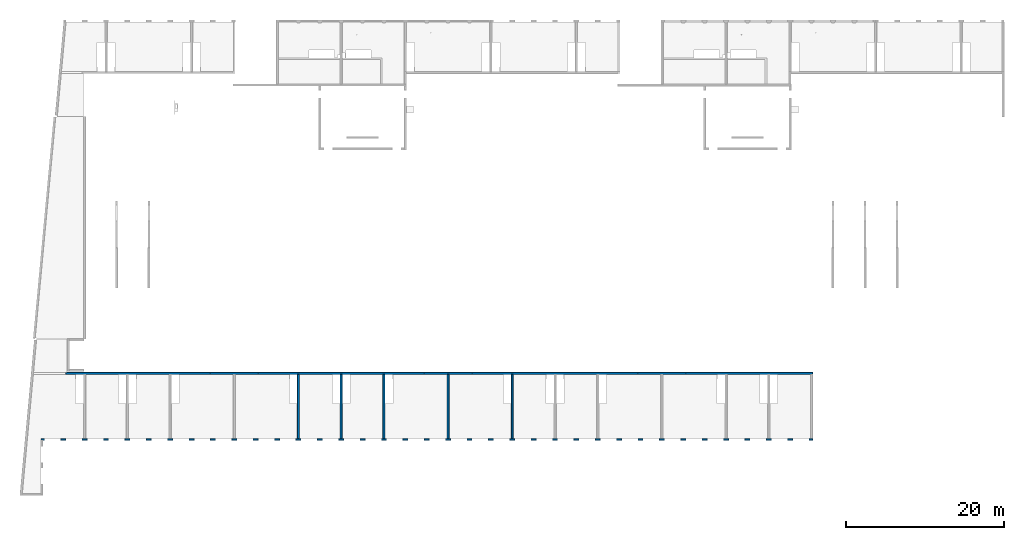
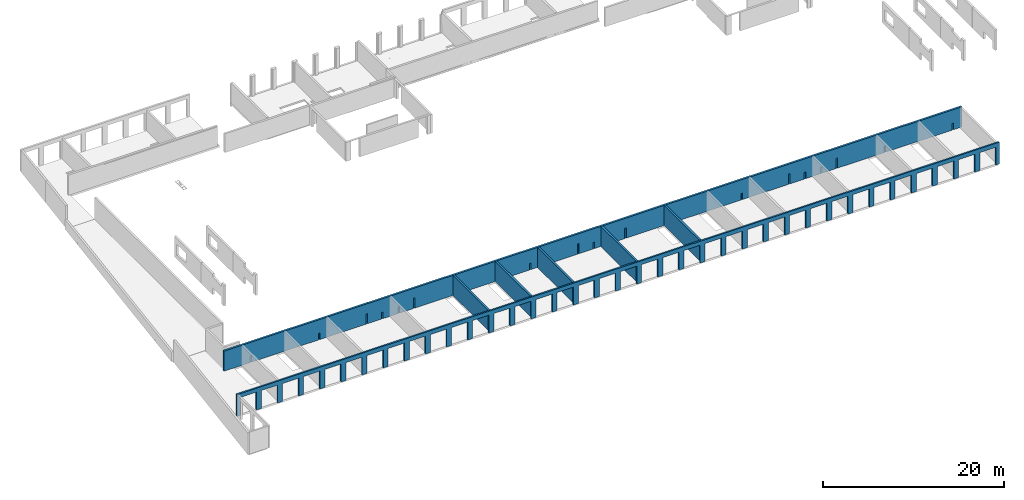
# One storey, part 4 of 12: 7 walls, 60 openings.
"""IFC2X3 building model written with IfcOpenShell, lengths in millimetres."""

from ifc_helpers import new_model, entity, si_unit, converted_unit, derived_unit, direction, frame, frame_2d, origin, place, context, subcontext, project, spatial, rectangle, extrude, material, layer, layer_set, layer_usage, type_object, element, save


model = new_model("IFC2X3")

# Units and contexts
model_context = context("Model", 3, precision=0.01, world=origin(), true_north=direction((6.12303176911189e-17, 1.0)))
body_context = subcontext(model_context, "Body", "Model", "MODEL_VIEW")
ifc_project = project(units=[si_unit("LENGTHUNIT", "METRE", prefix="MILLI"), si_unit("AREAUNIT", "SQUARE_METRE"), si_unit("VOLUMEUNIT", "CUBIC_METRE"), converted_unit("PLANEANGLEUNIT", "DEGREE", entity("IfcRatioMeasure", 0.0174532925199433), si_unit("PLANEANGLEUNIT", "RADIAN"), dimensions=[0, 0, 0, 0, 0, 0, 0]), si_unit("MASSUNIT", "GRAM", prefix="KILO"), derived_unit("MASSDENSITYUNIT", [(si_unit("MASSUNIT", "GRAM", prefix="KILO"), 1), (si_unit("LENGTHUNIT", "METRE"), -3)]), si_unit("TIMEUNIT", "SECOND"), si_unit("FREQUENCYUNIT", "HERTZ"), si_unit("THERMODYNAMICTEMPERATUREUNIT", "DEGREE_CELSIUS"), derived_unit("THERMALTRANSMITTANCEUNIT", [(si_unit("MASSUNIT", "GRAM", prefix="KILO"), 1), (si_unit("THERMODYNAMICTEMPERATUREUNIT", "KELVIN"), -1), (si_unit("TIMEUNIT", "SECOND"), -3)]), derived_unit("VOLUMETRICFLOWRATEUNIT", [(si_unit("LENGTHUNIT", "METRE"), 3), (si_unit("TIMEUNIT", "SECOND"), -1)]), si_unit("ELECTRICCURRENTUNIT", "AMPERE"), si_unit("ELECTRICVOLTAGEUNIT", "VOLT"), si_unit("POWERUNIT", "WATT"), si_unit("FORCEUNIT", "NEWTON", prefix="KILO"), si_unit("ILLUMINANCEUNIT", "LUX"), si_unit("LUMINOUSFLUXUNIT", "LUMEN"), si_unit("LUMINOUSINTENSITYUNIT", "CANDELA"), derived_unit("USERDEFINED", [(si_unit("MASSUNIT", "GRAM", prefix="KILO"), -1), (si_unit("LENGTHUNIT", "METRE"), -2), (si_unit("TIMEUNIT", "SECOND"), 3), (si_unit("LUMINOUSFLUXUNIT", "LUMEN"), 1)]), derived_unit("LINEARVELOCITYUNIT", [(si_unit("LENGTHUNIT", "METRE"), 1), (si_unit("TIMEUNIT", "SECOND"), -1)]), si_unit("PRESSUREUNIT", "PASCAL"), derived_unit("USERDEFINED", [(si_unit("LENGTHUNIT", "METRE"), -2), (si_unit("MASSUNIT", "GRAM", prefix="KILO"), 1), (si_unit("TIMEUNIT", "SECOND"), -2)])], contexts=[model_context])

# Site, building, storey
site_placement = place(None, origin())
site = spatial("IfcSite", under=ifc_project, at=site_placement, Name="Default", CompositionType="ELEMENT")
building_placement = place(site_placement, origin())
building = spatial("IfcBuilding", under=site, at=building_placement, Name="niet gebruiken", CompositionType="ELEMENT")
storey_placement = place(building_placement, frame((0.0, 0.0, 6660.0)))
storey = spatial("IfcBuildingStorey", under=building, at=storey_placement, Name="02 tweede verdieping", CompositionType="ELEMENT", Elevation=6660.00000000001)

# Walls
ifc_material_1 = material(Name="NLRS_f2_beton ihwg")
ifc_layer_1 = layer(ifc_material_1, 250.0)
ifc_layer_set_1 = layer_set([ifc_layer_1], Name="Basic Wall:NLRS_22.21_WA_beton ihwg d=250_gen")
ifc_layer_usage_1 = layer_usage(ifc_layer_set_1, "AXIS2", "NEGATIVE", 125.0)
wall_type_1 = type_object("IfcWallType", Name="Basic Wall:NLRS_22.21_WA_beton ihwg d=250_gen", PredefinedType="STANDARD", material=ifc_layer_set_1)
wall_1_placement = place(storey_placement, frame((35100.0, 8496.0, -90.0), z_axis=(0.0, 0.0, 1.0), x_axis=(0.0, -1.0, 0.0)))
element("IfcWallStandardCase", 1, at=wall_1_placement, inside=storey, type_object=wall_type_1, material=ifc_layer_usage_1, Name="Basic Wall:NLRS_22.21_WA_beton ihwg d=250_gen", ObjectType="Basic Wall:NLRS_22.21_WA_beton ihwg d=250_gen", context=body_context, shape_type="SweptSolid", body=[
    extrude(rectangle(XDim=8075.99999999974, YDim=250.000000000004, at=frame_2d((4037.99999999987, 0.0), x_axis=(-1.0, 0.0))), origin(), (0.0, 0.0, 1.0), 2719.99999999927),
])
ifc_layer_usage_2 = layer_usage(ifc_layer_set_1, "AXIS2", "NEGATIVE", 125.0)
wall_2_placement = place(storey_placement, frame((40500.0, 8496.0, -90.0), z_axis=(0.0, 0.0, 1.0), x_axis=(0.0, -1.0, 0.0)))
element("IfcWallStandardCase", 2, at=wall_2_placement, inside=storey, type_object=wall_type_1, material=ifc_layer_usage_2, Name="Basic Wall:NLRS_22.21_WA_beton ihwg d=250_gen", ObjectType="Basic Wall:NLRS_22.21_WA_beton ihwg d=250_gen", context=body_context, shape_type="SweptSolid", body=[
    extrude(rectangle(XDim=8075.99999999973, YDim=249.999999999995, at=frame_2d((4037.99999999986, 0.0), x_axis=(-1.0, 0.0))), origin(), (0.0, 0.0, 1.0), 2720.00000000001),
])
ifc_layer_usage_3 = layer_usage(ifc_layer_set_1, "AXIS2", "NEGATIVE", 125.0)
wall_3_placement = place(storey_placement, frame((45900.0, 8496.0, -90.0), z_axis=(0.0, 0.0, 1.0), x_axis=(0.0, -1.0, 0.0)))
element("IfcWallStandardCase", 3, at=wall_3_placement, inside=storey, type_object=wall_type_1, material=ifc_layer_usage_3, Name="Basic Wall:NLRS_22.21_WA_beton ihwg d=250_gen", ObjectType="Basic Wall:NLRS_22.21_WA_beton ihwg d=250_gen", context=body_context, shape_type="SweptSolid", body=[
    extrude(rectangle(XDim=8075.99999999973, YDim=249.999999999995, at=frame_2d((4037.99999999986, 0.0), x_axis=(-1.0, 0.0))), origin(), (0.0, 0.0, 1.0), 2720.00000000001),
])
ifc_layer_usage_4 = layer_usage(ifc_layer_set_1, "AXIS2", "NEGATIVE", 125.0)
wall_4_placement = place(storey_placement, frame((54000.0, 8496.0, -90.0), z_axis=(0.0, 0.0, 1.0), x_axis=(0.0, -1.0, 0.0)))
element("IfcWallStandardCase", 4, at=wall_4_placement, inside=storey, type_object=wall_type_1, material=ifc_layer_usage_4, Name="Basic Wall:NLRS_22.21_WA_beton ihwg d=250_gen", ObjectType="Basic Wall:NLRS_22.21_WA_beton ihwg d=250_gen", context=body_context, shape_type="SweptSolid", body=[
    extrude(rectangle(XDim=8075.99999999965, YDim=249.999999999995, at=frame_2d((4037.99999999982, 0.0), x_axis=(-1.0, 0.0))), origin(), (0.0, 0.0, 1.0), 2720.00000000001),
])
ifc_layer_usage_5 = layer_usage(ifc_layer_set_1, "AXIS2", "NEGATIVE", 125.0)
wall_5_placement = place(storey_placement, frame((62100.0, 8496.0, -90.0), z_axis=(0.0, 0.0, 1.0), x_axis=(0.0, -1.0, 0.0)))
element("IfcWallStandardCase", 5, at=wall_5_placement, inside=storey, type_object=wall_type_1, material=ifc_layer_usage_5, Name="Basic Wall:NLRS_22.21_WA_beton ihwg d=250_gen", ObjectType="Basic Wall:NLRS_22.21_WA_beton ihwg d=250_gen", context=body_context, shape_type="SweptSolid", body=[
    extrude(rectangle(XDim=8075.99999999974, YDim=249.999999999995, at=frame_2d((4037.99999999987, 0.0), x_axis=(-1.0, 0.0))), origin(), (0.0, 0.0, 1.0), 2720.00000000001),
])

# Wall, openings
ifc_layer_usage_6 = layer_usage(ifc_layer_set_1, "AXIS2", "NEGATIVE", 125.0)
wall_6_placement = place(storey_placement, frame((5735.0, 8621.0, -90.0)))
wall_6 = element("IfcWallStandardCase", 6, at=wall_6_placement, inside=storey, type_object=wall_type_1, material=ifc_layer_usage_6, Name="Basic Wall:NLRS_22.21_WA_beton ihwg d=250_gen", ObjectType="Basic Wall:NLRS_22.21_WA_beton ihwg d=250_gen", context=body_context, shape_type="SweptSolid", body=[
    extrude(rectangle(XDim=94290.0, YDim=249.999999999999, at=frame_2d((47145.0, 1.63424829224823e-13), x_axis=(-1.0, 0.0))), origin(), (0.0, 0.0, 1.0), 2720.00000000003),
])
opening_1_placement = place(wall_6_placement, origin())
element("IfcOpeningElement", 7, at=opening_1_placement, cuts=wall_6, Name="Basic Wall:NLRS_22.21_WA_beton ihwg d=250_gen", ObjectType="Recess", context=body_context, shape_type="SweptSolid", body=[
    extrude(rectangle(XDim=890.0, YDim=200.000000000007, at=frame_2d((-5.40012479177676e-13, 8.66862137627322e-12), x_axis=(1.0, 0.0))), frame((93130.0, -125.0, 445.0), z_axis=(0.0, 1.0, 0.0), x_axis=(0.0, 0.0, -1.0)), (0.0, 0.0, 1.0), 40.0000000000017),
])
opening_2_placement = place(wall_6_placement, origin())
element("IfcOpeningElement", 8, at=opening_2_placement, cuts=wall_6, Name="Basic Wall:NLRS_22.21_WA_beton ihwg d=250_gen", ObjectType="Recess", context=body_context, shape_type="SweptSolid", body=[
    extrude(rectangle(XDim=890.0, YDim=200.000000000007, at=frame_2d((-5.40012479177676e-13, 8.66862137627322e-12), x_axis=(1.0, 0.0))), frame((84400.0, -125.0, 445.0), z_axis=(0.0, 1.0, 0.0), x_axis=(0.0, 0.0, -1.0)), (0.0, 0.0, 1.0), 40.0000000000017),
])
opening_3_placement = place(wall_6_placement, origin())
element("IfcOpeningElement", 9, at=opening_3_placement, cuts=wall_6, Name="Basic Wall:NLRS_22.21_WA_beton ihwg d=250_gen", ObjectType="Recess", context=body_context, shape_type="SweptSolid", body=[
    extrude(rectangle(XDim=1390.0, YDim=200.000000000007, at=frame_2d((0.0, -8.66862137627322e-12), x_axis=(1.0, 0.0))), frame((78295.0, -125.0, 695.0), z_axis=(0.0, 1.0, 0.0), x_axis=(0.0, 0.0, -1.0)), (0.0, 0.0, 1.0), 40.0000000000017),
])
opening_4_placement = place(wall_6_placement, origin())
element("IfcOpeningElement", 10, at=opening_4_placement, cuts=wall_6, Name="Basic Wall:NLRS_22.21_WA_beton ihwg d=250_gen", ObjectType="Recess", context=body_context, shape_type="SweptSolid", body=[
    extrude(rectangle(XDim=890.0, YDim=200.000000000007, at=frame_2d((-5.40012479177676e-13, -8.66862137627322e-12), x_axis=(1.0, 0.0))), frame((76300.0, -125.0, 445.0), z_axis=(0.0, 1.0, 0.0), x_axis=(0.0, 0.0, -1.0)), (0.0, 0.0, 1.0), 40.0000000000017),
])
opening_5_placement = place(wall_6_placement, origin())
element("IfcOpeningElement", 11, at=opening_5_placement, cuts=wall_6, Name="Basic Wall:NLRS_22.21_WA_beton ihwg d=250_gen", ObjectType="Recess", context=body_context, shape_type="SweptSolid", body=[
    extrude(rectangle(XDim=890.0, YDim=200.000000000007, at=frame_2d((-5.40012479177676e-13, 8.66862137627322e-12), x_axis=(1.0, 0.0))), frame((74230.0, -125.0, 445.0), z_axis=(0.0, 1.0, 0.0), x_axis=(0.0, 0.0, -1.0)), (0.0, 0.0, 1.0), 40.0000000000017),
])
opening_6_placement = place(wall_6_placement, origin())
element("IfcOpeningElement", 12, at=opening_6_placement, cuts=wall_6, Name="Basic Wall:NLRS_22.21_WA_beton ihwg d=250_gen", ObjectType="Recess", context=body_context, shape_type="SweptSolid", body=[
    extrude(rectangle(XDim=1390.0, YDim=199.999999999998, at=frame_2d((0.0, -4.33431068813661e-12), x_axis=(1.0, 0.0))), frame((72235.0, -125.0, 695.0), z_axis=(0.0, 1.0, 0.0), x_axis=(0.0, 0.0, -1.0)), (0.0, 0.0, 1.0), 40.0000000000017),
])
opening_7_placement = place(wall_6_placement, origin())
element("IfcOpeningElement", 13, at=opening_7_placement, cuts=wall_6, Name="Basic Wall:NLRS_22.21_WA_beton ihwg d=250_gen", ObjectType="Recess", context=body_context, shape_type="SweptSolid", body=[
    extrude(rectangle(XDim=890.0, YDim=199.999999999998, at=frame_2d((-5.40012479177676e-13, -4.33431068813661e-12), x_axis=(1.0, 0.0))), frame((66130.0, -125.0, 445.0), z_axis=(0.0, 1.0, 0.0), x_axis=(0.0, 0.0, -1.0)), (0.0, 0.0, 1.0), 40.0000000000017),
])
opening_8_placement = place(wall_6_placement, origin())
element("IfcOpeningElement", 14, at=opening_8_placement, cuts=wall_6, Name="Basic Wall:NLRS_22.21_WA_beton ihwg d=250_gen", ObjectType="Recess", context=body_context, shape_type="SweptSolid", body=[
    extrude(rectangle(XDim=890.0, YDim=199.999999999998, at=frame_2d((-5.40012479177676e-13, -4.33431068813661e-12), x_axis=(1.0, 0.0))), frame((57400.0, -125.0, 445.0), z_axis=(0.0, 1.0, 0.0), x_axis=(0.0, 0.0, -1.0)), (0.0, 0.0, 1.0), 40.0000000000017),
])
opening_9_placement = place(wall_6_placement, origin())
element("IfcOpeningElement", 15, at=opening_9_placement, cuts=wall_6, Name="Basic Wall:NLRS_22.21_WA_beton ihwg d=250_gen", ObjectType="Recess", context=body_context, shape_type="SweptSolid", body=[
    extrude(rectangle(XDim=1390.0, YDim=199.999999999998, at=frame_2d((0.0, -4.33431068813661e-12), x_axis=(1.0, 0.0))), frame((51295.0, -125.0, 695.0), z_axis=(0.0, 1.0, 0.0), x_axis=(0.0, 0.0, -1.0)), (0.0, 0.0, 1.0), 40.0000000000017),
])
opening_10_placement = place(wall_6_placement, origin())
element("IfcOpeningElement", 16, at=opening_10_placement, cuts=wall_6, Name="Basic Wall:NLRS_22.21_WA_beton ihwg d=250_gen", ObjectType="Recess", context=body_context, shape_type="SweptSolid", body=[
    extrude(rectangle(XDim=890.0, YDim=199.999999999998, at=frame_2d((-5.40012479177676e-13, 4.33431068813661e-12), x_axis=(1.0, 0.0))), frame((49300.0, -125.0, 445.0), z_axis=(0.0, 1.0, 0.0), x_axis=(0.0, 0.0, -1.0)), (0.0, 0.0, 1.0), 40.0000000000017),
])
opening_11_placement = place(wall_6_placement, origin())
element("IfcOpeningElement", 17, at=opening_11_placement, cuts=wall_6, Name="Basic Wall:NLRS_22.21_WA_beton ihwg d=250_gen", ObjectType="Recess", context=body_context, shape_type="SweptSolid", body=[
    extrude(rectangle(XDim=890.0, YDim=199.999999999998, at=frame_2d((-5.40012479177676e-13, -4.33431068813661e-12), x_axis=(1.0, 0.0))), frame((47230.0, -125.0, 445.0), z_axis=(0.0, 1.0, 0.0), x_axis=(0.0, 0.0, -1.0)), (0.0, 0.0, 1.0), 40.0000000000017),
])
opening_12_placement = place(wall_6_placement, origin())
element("IfcOpeningElement", 18, at=opening_12_placement, cuts=wall_6, Name="Basic Wall:NLRS_22.21_WA_beton ihwg d=250_gen", ObjectType="Recess", context=body_context, shape_type="SweptSolid", body=[
    extrude(rectangle(XDim=1390.0, YDim=199.999999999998, at=frame_2d((0.0, -4.33431068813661e-12), x_axis=(1.0, 0.0))), frame((45235.0, -125.0, 695.0), z_axis=(0.0, 1.0, 0.0), x_axis=(0.0, 0.0, -1.0)), (0.0, 0.0, 1.0), 40.0000000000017),
])
opening_13_placement = place(wall_6_placement, origin())
element("IfcOpeningElement", 19, at=opening_13_placement, cuts=wall_6, Name="Basic Wall:NLRS_22.21_WA_beton ihwg d=250_gen", ObjectType="Recess", context=body_context, shape_type="SweptSolid", body=[
    extrude(rectangle(XDim=890.0, YDim=199.999999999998, at=frame_2d((-5.40012479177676e-13, -4.33431068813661e-12), x_axis=(1.0, 0.0))), frame((39130.0, -125.0, 445.0), z_axis=(0.0, 1.0, 0.0), x_axis=(0.0, 0.0, -1.0)), (0.0, 0.0, 1.0), 40.0000000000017),
])
opening_14_placement = place(wall_6_placement, origin())
element("IfcOpeningElement", 20, at=opening_14_placement, cuts=wall_6, Name="Basic Wall:NLRS_22.21_WA_beton ihwg d=250_gen", ObjectType="Recess", context=body_context, shape_type="SweptSolid", body=[
    extrude(rectangle(XDim=890.0, YDim=200.000000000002, at=frame_2d((-5.40012479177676e-13, -2.16715534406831e-12), x_axis=(1.0, 0.0))), frame((30400.0, -125.0, 445.0), z_axis=(0.0, 1.0, 0.0), x_axis=(0.0, 0.0, -1.0)), (0.0, 0.0, 1.0), 40.0000000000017),
])
opening_15_placement = place(wall_6_placement, origin())
element("IfcOpeningElement", 21, at=opening_15_placement, cuts=wall_6, Name="Basic Wall:NLRS_22.21_WA_beton ihwg d=250_gen", ObjectType="Recess", context=body_context, shape_type="SweptSolid", body=[
    extrude(rectangle(XDim=1390.0, YDim=200.000000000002, at=frame_2d((0.0, -2.16715534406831e-12), x_axis=(1.0, 0.0))), frame((24295.0, -125.0, 695.0), z_axis=(0.0, 1.0, 0.0), x_axis=(0.0, 0.0, -1.0)), (0.0, 0.0, 1.0), 40.0000000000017),
])
opening_16_placement = place(wall_6_placement, origin())
element("IfcOpeningElement", 22, at=opening_16_placement, cuts=wall_6, Name="Basic Wall:NLRS_22.21_WA_beton ihwg d=250_gen", ObjectType="Recess", context=body_context, shape_type="SweptSolid", body=[
    extrude(rectangle(XDim=890.0, YDim=200.000000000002, at=frame_2d((-5.40012479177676e-13, 2.16715534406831e-12), x_axis=(1.0, 0.0))), frame((22300.0, -125.0, 445.0), z_axis=(0.0, 1.0, 0.0), x_axis=(0.0, 0.0, -1.0)), (0.0, 0.0, 1.0), 40.0000000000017),
])
opening_17_placement = place(wall_6_placement, origin())
element("IfcOpeningElement", 23, at=opening_17_placement, cuts=wall_6, Name="Basic Wall:NLRS_22.21_WA_beton ihwg d=250_gen", ObjectType="Recess", context=body_context, shape_type="SweptSolid", body=[
    extrude(rectangle(XDim=890.0, YDim=200.000000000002, at=frame_2d((-5.40012479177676e-13, -2.16715534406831e-12), x_axis=(1.0, 0.0))), frame((20230.0, -125.0, 445.0), z_axis=(0.0, 1.0, 0.0), x_axis=(0.0, 0.0, -1.0)), (0.0, 0.0, 1.0), 40.0000000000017),
])
opening_18_placement = place(wall_6_placement, origin())
element("IfcOpeningElement", 24, at=opening_18_placement, cuts=wall_6, Name="Basic Wall:NLRS_22.21_WA_beton ihwg d=250_gen", ObjectType="Recess", context=body_context, shape_type="SweptSolid", body=[
    extrude(rectangle(XDim=1390.0, YDim=200.000000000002, at=frame_2d((0.0, 2.16715534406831e-12), x_axis=(1.0, 0.0))), frame((18235.0, -125.0, 695.0), z_axis=(0.0, 1.0, 0.0), x_axis=(0.0, 0.0, -1.0)), (0.0, 0.0, 1.0), 40.0000000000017),
])
opening_19_placement = place(wall_6_placement, origin())
element("IfcOpeningElement", 25, at=opening_19_placement, cuts=wall_6, Name="Basic Wall:NLRS_22.21_WA_beton ihwg d=250_gen", ObjectType="Recess", context=body_context, shape_type="SweptSolid", body=[
    extrude(rectangle(XDim=890.0, YDim=200.0, at=frame_2d((-5.40012479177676e-13, 1.08713038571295e-12), x_axis=(1.0, 0.0))), frame((12130.0, -125.0, 445.0), z_axis=(0.0, 1.0, 0.0), x_axis=(0.0, 0.0, -1.0)), (0.0, 0.0, 1.0), 40.0000000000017),
])
opening_20_placement = place(wall_6_placement, origin())
element("IfcOpeningElement", 26, at=opening_20_placement, cuts=wall_6, Name="Basic Wall:NLRS_22.21_WA_beton ihwg d=250_gen", ObjectType="Recess", context=body_context, shape_type="SweptSolid", body=[
    extrude(rectangle(XDim=890.0, YDim=200.0, at=frame_2d((-5.40012479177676e-13, 0.0), x_axis=(1.0, 0.0))), frame((3400.0, -125.0, 445.0), z_axis=(0.0, 1.0, 0.0), x_axis=(0.0, 0.0, -1.0)), (0.0, 0.0, 1.0), 40.0000000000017),
])

ifc_material_2 = material(Name="NLRS_f2_beton prefab")
ifc_layer_2 = layer(ifc_material_2, 200.0)
ifc_layer_set_2 = layer_set([ifc_layer_2], Name="Basic Wall:NLRS_21.21_WA_beton prefab d=200_gen")
ifc_layer_usage_7 = layer_usage(ifc_layer_set_2, "AXIS2", "NEGATIVE", 100.0)
wall_type_2 = type_object("IfcWallType", Name="Basic Wall:NLRS_21.21_WA_beton prefab d=200_gen", PredefinedType="STANDARD", material=ifc_layer_set_2)
wall_7_placement = place(storey_placement, frame((2600.0, 300.0, -70.0)))
wall_7 = element("IfcWallStandardCase", 27, at=wall_7_placement, inside=storey, type_object=wall_type_2, material=ifc_layer_usage_7, Name="Basic Wall:NLRS_21.21_WA_beton prefab d=200_gen", ObjectType="Basic Wall:NLRS_21.21_WA_beton prefab d=200_gen", context=body_context, shape_type="SweptSolid", body=[
    extrude(rectangle(XDim=97424.9999999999, YDim=200.0, at=frame_2d((48712.4999999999, -2.8421709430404e-14), x_axis=(-1.0, 0.0))), origin(), (0.0, 0.0, 1.0), 2950.00000000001),
])
opening_21_placement = place(wall_7_placement, origin())
element("IfcOpeningElement", 28, at=opening_21_placement, cuts=wall_7, Name="Basic Wall:NLRS_21.21_WA_beton prefab d=200_gen", ObjectType="Opening", context=body_context, shape_type="SweptSolid", body=[
    extrude(rectangle(XDim=2440.0, YDim=2080.0, at=frame_2d((-8.64019966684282e-12, 0.0), x_axis=(0.0, 1.0))), frame((95950.0, -1424.0, 1200.0), z_axis=(0.0, 1.0, 0.0), x_axis=(-1.0, 0.0, 0.0)), (0.0, 0.0, 1.0), 3048.0),
])
opening_22_placement = place(wall_7_placement, origin())
element("IfcOpeningElement", 29, at=opening_22_placement, cuts=wall_7, Name="Basic Wall:NLRS_21.21_WA_beton prefab d=200_gen", ObjectType="Opening", context=body_context, shape_type="SweptSolid", body=[
    extrude(rectangle(XDim=2440.0, YDim=2080.0, at=frame_2d((8.64019966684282e-12, 0.0), x_axis=(0.0, 1.0))), frame((93250.0, -1424.0, 1200.0), z_axis=(0.0, 1.0, 0.0), x_axis=(-1.0, 0.0, 0.0)), (0.0, 0.0, 1.0), 3048.0),
])
opening_23_placement = place(wall_7_placement, origin())
element("IfcOpeningElement", 30, at=opening_23_placement, cuts=wall_7, Name="Basic Wall:NLRS_21.21_WA_beton prefab d=200_gen", ObjectType="Opening", context=body_context, shape_type="SweptSolid", body=[
    extrude(rectangle(XDim=2440.0, YDim=2080.0, at=frame_2d((8.64019966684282e-12, 0.0), x_axis=(0.0, 1.0))), frame((90550.0, -1424.0, 1200.0), z_axis=(0.0, 1.0, 0.0), x_axis=(-1.0, 0.0, 0.0)), (0.0, 0.0, 1.0), 3048.0),
])
opening_24_placement = place(wall_7_placement, origin())
element("IfcOpeningElement", 31, at=opening_24_placement, cuts=wall_7, Name="Basic Wall:NLRS_21.21_WA_beton prefab d=200_gen", ObjectType="Opening", context=body_context, shape_type="SweptSolid", body=[
    extrude(rectangle(XDim=2440.0, YDim=2080.0, at=frame_2d((-8.64019966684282e-12, 0.0), x_axis=(0.0, 1.0))), frame((87850.0, -1424.0, 1200.0), z_axis=(0.0, 1.0, 0.0), x_axis=(-1.0, 0.0, 0.0)), (0.0, 0.0, 1.0), 3048.0),
])
opening_25_placement = place(wall_7_placement, origin())
element("IfcOpeningElement", 32, at=opening_25_placement, cuts=wall_7, Name="Basic Wall:NLRS_21.21_WA_beton prefab d=200_gen", ObjectType="Opening", context=body_context, shape_type="SweptSolid", body=[
    extrude(rectangle(XDim=2440.0, YDim=2080.0, at=frame_2d((8.64019966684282e-12, 0.0), x_axis=(0.0, 1.0))), frame((85150.0, -1424.0, 1200.0), z_axis=(0.0, 1.0, 0.0), x_axis=(-1.0, 0.0, 0.0)), (0.0, 0.0, 1.0), 3048.0),
])
opening_26_placement = place(wall_7_placement, origin())
element("IfcOpeningElement", 33, at=opening_26_placement, cuts=wall_7, Name="Basic Wall:NLRS_21.21_WA_beton prefab d=200_gen", ObjectType="Opening", context=body_context, shape_type="SweptSolid", body=[
    extrude(rectangle(XDim=2440.0, YDim=2080.0, at=frame_2d((8.64019966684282e-12, 0.0), x_axis=(0.0, 1.0))), frame((82450.0, -1424.0, 1200.0), z_axis=(0.0, 1.0, 0.0), x_axis=(-1.0, 0.0, 0.0)), (0.0, 0.0, 1.0), 3048.0),
])
opening_27_placement = place(wall_7_placement, origin())
element("IfcOpeningElement", 34, at=opening_27_placement, cuts=wall_7, Name="Basic Wall:NLRS_21.21_WA_beton prefab d=200_gen", ObjectType="Opening", context=body_context, shape_type="SweptSolid", body=[
    extrude(rectangle(XDim=2440.0, YDim=2080.0, at=frame_2d((-8.64019966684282e-12, 0.0), x_axis=(0.0, 1.0))), frame((79750.0, -1424.0, 1200.0), z_axis=(0.0, 1.0, 0.0), x_axis=(-1.0, 0.0, 0.0)), (0.0, 0.0, 1.0), 3048.0),
])
opening_28_placement = place(wall_7_placement, origin())
element("IfcOpeningElement", 35, at=opening_28_placement, cuts=wall_7, Name="Basic Wall:NLRS_21.21_WA_beton prefab d=200_gen", ObjectType="Opening", context=body_context, shape_type="SweptSolid", body=[
    extrude(rectangle(XDim=2440.0, YDim=2080.0, at=frame_2d((-8.64019966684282e-12, 0.0), x_axis=(0.0, 1.0))), frame((77050.0, -1424.0, 1200.0), z_axis=(0.0, 1.0, 0.0), x_axis=(-1.0, 0.0, 0.0)), (0.0, 0.0, 1.0), 3048.0),
])
opening_29_placement = place(wall_7_placement, origin())
element("IfcOpeningElement", 36, at=opening_29_placement, cuts=wall_7, Name="Basic Wall:NLRS_21.21_WA_beton prefab d=200_gen", ObjectType="Opening", context=body_context, shape_type="SweptSolid", body=[
    extrude(rectangle(XDim=2440.0, YDim=2080.0, at=frame_2d((0.0, 0.0), x_axis=(0.0, 1.0))), frame((74350.0, -1424.0, 1200.0), z_axis=(0.0, 1.0, 0.0), x_axis=(-1.0, 0.0, 0.0)), (0.0, 0.0, 1.0), 3048.0),
])
opening_30_placement = place(wall_7_placement, origin())
element("IfcOpeningElement", 37, at=opening_30_placement, cuts=wall_7, Name="Basic Wall:NLRS_21.21_WA_beton prefab d=200_gen", ObjectType="Opening", context=body_context, shape_type="SweptSolid", body=[
    extrude(rectangle(XDim=2440.0, YDim=2080.0, at=frame_2d((0.0, 0.0), x_axis=(0.0, 1.0))), frame((71650.0, -1424.0, 1200.0), z_axis=(0.0, 1.0, 0.0), x_axis=(-1.0, 0.0, 0.0)), (0.0, 0.0, 1.0), 3048.0),
])
opening_31_placement = place(wall_7_placement, origin())
element("IfcOpeningElement", 38, at=opening_31_placement, cuts=wall_7, Name="Basic Wall:NLRS_21.21_WA_beton prefab d=200_gen", ObjectType="Opening", context=body_context, shape_type="SweptSolid", body=[
    extrude(rectangle(XDim=2440.0, YDim=2080.0, at=frame_2d((8.64019966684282e-12, 0.0), x_axis=(0.0, 1.0))), frame((68950.0, -1424.0, 1200.0), z_axis=(0.0, 1.0, 0.0), x_axis=(-1.0, 0.0, 0.0)), (0.0, 0.0, 1.0), 3048.0),
])
opening_32_placement = place(wall_7_placement, origin())
element("IfcOpeningElement", 39, at=opening_32_placement, cuts=wall_7, Name="Basic Wall:NLRS_21.21_WA_beton prefab d=200_gen", ObjectType="Opening", context=body_context, shape_type="SweptSolid", body=[
    extrude(rectangle(XDim=2440.0, YDim=2080.0, at=frame_2d((0.0, 0.0), x_axis=(0.0, 1.0))), frame((66250.0, -1424.0, 1200.0), z_axis=(0.0, 1.0, 0.0), x_axis=(-1.0, 0.0, 0.0)), (0.0, 0.0, 1.0), 3048.0),
])
opening_33_placement = place(wall_7_placement, origin())
element("IfcOpeningElement", 40, at=opening_33_placement, cuts=wall_7, Name="Basic Wall:NLRS_21.21_WA_beton prefab d=200_gen", ObjectType="Opening", context=body_context, shape_type="SweptSolid", body=[
    extrude(rectangle(XDim=2440.0, YDim=2080.0, at=frame_2d((0.0, 0.0), x_axis=(0.0, 1.0))), frame((63550.0, -1424.0, 1200.0), z_axis=(0.0, 1.0, 0.0), x_axis=(-1.0, 0.0, 0.0)), (0.0, 0.0, 1.0), 3048.0),
])
opening_34_placement = place(wall_7_placement, origin())
element("IfcOpeningElement", 41, at=opening_34_placement, cuts=wall_7, Name="Basic Wall:NLRS_21.21_WA_beton prefab d=200_gen", ObjectType="Opening", context=body_context, shape_type="SweptSolid", body=[
    extrude(rectangle(XDim=2440.0, YDim=2080.0, at=frame_2d((-8.64019966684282e-12, 0.0), x_axis=(0.0, 1.0))), frame((60850.0, -1424.0, 1200.0), z_axis=(0.0, 1.0, 0.0), x_axis=(-1.0, 0.0, 0.0)), (0.0, 0.0, 1.0), 3048.0),
])
opening_35_placement = place(wall_7_placement, origin())
element("IfcOpeningElement", 42, at=opening_35_placement, cuts=wall_7, Name="Basic Wall:NLRS_21.21_WA_beton prefab d=200_gen", ObjectType="Opening", context=body_context, shape_type="SweptSolid", body=[
    extrude(rectangle(XDim=2440.0, YDim=2080.0, at=frame_2d((0.0, 0.0), x_axis=(0.0, 1.0))), frame((58150.0, -1424.0, 1200.0), z_axis=(0.0, 1.0, 0.0), x_axis=(-1.0, 0.0, 0.0)), (0.0, 0.0, 1.0), 3048.0),
])
opening_36_placement = place(wall_7_placement, origin())
element("IfcOpeningElement", 43, at=opening_36_placement, cuts=wall_7, Name="Basic Wall:NLRS_21.21_WA_beton prefab d=200_gen", ObjectType="Opening", context=body_context, shape_type="SweptSolid", body=[
    extrude(rectangle(XDim=2440.0, YDim=2080.0, at=frame_2d((0.0, 0.0), x_axis=(0.0, 1.0))), frame((55450.0, -1424.0, 1200.0), z_axis=(0.0, 1.0, 0.0), x_axis=(-1.0, 0.0, 0.0)), (0.0, 0.0, 1.0), 3048.0),
])
opening_37_placement = place(wall_7_placement, origin())
element("IfcOpeningElement", 44, at=opening_37_placement, cuts=wall_7, Name="Basic Wall:NLRS_21.21_WA_beton prefab d=200_gen", ObjectType="Opening", context=body_context, shape_type="SweptSolid", body=[
    extrude(rectangle(XDim=2440.0, YDim=2080.0, at=frame_2d((0.0, 0.0), x_axis=(0.0, 1.0))), frame((52750.0, -1424.0, 1200.0), z_axis=(0.0, 1.0, 0.0), x_axis=(-1.0, 0.0, 0.0)), (0.0, 0.0, 1.0), 3048.0),
])
opening_38_placement = place(wall_7_placement, origin())
element("IfcOpeningElement", 45, at=opening_38_placement, cuts=wall_7, Name="Basic Wall:NLRS_21.21_WA_beton prefab d=200_gen", ObjectType="Opening", context=body_context, shape_type="SweptSolid", body=[
    extrude(rectangle(XDim=2440.0, YDim=2080.0, at=frame_2d((8.64019966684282e-12, 0.0), x_axis=(0.0, 1.0))), frame((50050.0, -1424.0, 1200.0), z_axis=(0.0, 1.0, 0.0), x_axis=(-1.0, 0.0, 0.0)), (0.0, 0.0, 1.0), 3048.0),
])
opening_39_placement = place(wall_7_placement, origin())
element("IfcOpeningElement", 46, at=opening_39_placement, cuts=wall_7, Name="Basic Wall:NLRS_21.21_WA_beton prefab d=200_gen", ObjectType="Opening", context=body_context, shape_type="SweptSolid", body=[
    extrude(rectangle(XDim=2440.0, YDim=2080.0, at=frame_2d((0.0, 0.0), x_axis=(0.0, 1.0))), frame((47350.0, -1424.0, 1200.0), z_axis=(0.0, 1.0, 0.0), x_axis=(-1.0, 0.0, 0.0)), (0.0, 0.0, 1.0), 3048.0),
])
opening_40_placement = place(wall_7_placement, origin())
element("IfcOpeningElement", 47, at=opening_40_placement, cuts=wall_7, Name="Basic Wall:NLRS_21.21_WA_beton prefab d=200_gen", ObjectType="Opening", context=body_context, shape_type="SweptSolid", body=[
    extrude(rectangle(XDim=2440.0, YDim=2080.0, at=frame_2d((0.0, 0.0), x_axis=(0.0, 1.0))), frame((44650.0, -1424.0, 1200.0), z_axis=(0.0, 1.0, 0.0), x_axis=(-1.0, 0.0, 0.0)), (0.0, 0.0, 1.0), 3048.0),
])
opening_41_placement = place(wall_7_placement, origin())
element("IfcOpeningElement", 48, at=opening_41_placement, cuts=wall_7, Name="Basic Wall:NLRS_21.21_WA_beton prefab d=200_gen", ObjectType="Opening", context=body_context, shape_type="SweptSolid", body=[
    extrude(rectangle(XDim=2440.0, YDim=2080.0, at=frame_2d((0.0, 0.0), x_axis=(0.0, 1.0))), frame((41950.0, -1424.0, 1200.0), z_axis=(0.0, 1.0, 0.0), x_axis=(-1.0, 0.0, 0.0)), (0.0, 0.0, 1.0), 3048.0),
])
opening_42_placement = place(wall_7_placement, origin())
element("IfcOpeningElement", 49, at=opening_42_placement, cuts=wall_7, Name="Basic Wall:NLRS_21.21_WA_beton prefab d=200_gen", ObjectType="Opening", context=body_context, shape_type="SweptSolid", body=[
    extrude(rectangle(XDim=2440.0, YDim=2080.0, at=frame_2d((0.0, 0.0), x_axis=(0.0, 1.0))), frame((39250.0, -1424.0, 1200.0), z_axis=(0.0, 1.0, 0.0), x_axis=(-1.0, 0.0, 0.0)), (0.0, 0.0, 1.0), 3048.0),
])
opening_43_placement = place(wall_7_placement, origin())
element("IfcOpeningElement", 50, at=opening_43_placement, cuts=wall_7, Name="Basic Wall:NLRS_21.21_WA_beton prefab d=200_gen", ObjectType="Opening", context=body_context, shape_type="SweptSolid", body=[
    extrude(rectangle(XDim=2440.0, YDim=2079.99999999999, at=frame_2d((-2.1600499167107e-12, 0.0), x_axis=(0.0, 1.0))), frame((36550.0, -1424.0, 1200.0), z_axis=(0.0, 1.0, 0.0), x_axis=(-1.0, 0.0, 0.0)), (0.0, 0.0, 1.0), 3048.0),
])
opening_44_placement = place(wall_7_placement, origin())
element("IfcOpeningElement", 51, at=opening_44_placement, cuts=wall_7, Name="Basic Wall:NLRS_21.21_WA_beton prefab d=200_gen", ObjectType="Opening", context=body_context, shape_type="SweptSolid", body=[
    extrude(rectangle(XDim=2440.0, YDim=2080.0, at=frame_2d((2.1600499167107e-12, 0.0), x_axis=(0.0, 1.0))), frame((33850.0, -1424.0, 1200.0), z_axis=(0.0, 1.0, 0.0), x_axis=(-1.0, 0.0, 0.0)), (0.0, 0.0, 1.0), 3048.0),
])
opening_45_placement = place(wall_7_placement, origin())
element("IfcOpeningElement", 52, at=opening_45_placement, cuts=wall_7, Name="Basic Wall:NLRS_21.21_WA_beton prefab d=200_gen", ObjectType="Opening", context=body_context, shape_type="SweptSolid", body=[
    extrude(rectangle(XDim=2440.0, YDim=2080.0, at=frame_2d((2.1600499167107e-12, 0.0), x_axis=(0.0, 1.0))), frame((31150.0, -1424.0, 1200.0), z_axis=(0.0, 1.0, 0.0), x_axis=(-1.0, 0.0, 0.0)), (0.0, 0.0, 1.0), 3048.0),
])
opening_46_placement = place(wall_7_placement, origin())
element("IfcOpeningElement", 53, at=opening_46_placement, cuts=wall_7, Name="Basic Wall:NLRS_21.21_WA_beton prefab d=200_gen", ObjectType="Opening", context=body_context, shape_type="SweptSolid", body=[
    extrude(rectangle(XDim=2440.0, YDim=2080.0, at=frame_2d((2.1600499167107e-12, 0.0), x_axis=(0.0, 1.0))), frame((28450.0, -1424.0, 1200.0), z_axis=(0.0, 1.0, 0.0), x_axis=(-1.0, 0.0, 0.0)), (0.0, 0.0, 1.0), 3048.0),
])
opening_47_placement = place(wall_7_placement, origin())
element("IfcOpeningElement", 54, at=opening_47_placement, cuts=wall_7, Name="Basic Wall:NLRS_21.21_WA_beton prefab d=200_gen", ObjectType="Opening", context=body_context, shape_type="SweptSolid", body=[
    extrude(rectangle(XDim=2440.0, YDim=2080.0, at=frame_2d((2.1600499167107e-12, 0.0), x_axis=(0.0, 1.0))), frame((25750.0, -1424.0, 1200.0), z_axis=(0.0, 1.0, 0.0), x_axis=(-1.0, 0.0, 0.0)), (0.0, 0.0, 1.0), 3048.0),
])
opening_48_placement = place(wall_7_placement, origin())
element("IfcOpeningElement", 55, at=opening_48_placement, cuts=wall_7, Name="Basic Wall:NLRS_21.21_WA_beton prefab d=200_gen", ObjectType="Opening", context=body_context, shape_type="SweptSolid", body=[
    extrude(rectangle(XDim=2440.0, YDim=2080.0, at=frame_2d((2.1600499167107e-12, 0.0), x_axis=(0.0, 1.0))), frame((23050.0, -1424.0, 1200.0), z_axis=(0.0, 1.0, 0.0), x_axis=(-1.0, 0.0, 0.0)), (0.0, 0.0, 1.0), 3048.0),
])
opening_49_placement = place(wall_7_placement, origin())
element("IfcOpeningElement", 56, at=opening_49_placement, cuts=wall_7, Name="Basic Wall:NLRS_21.21_WA_beton prefab d=200_gen", ObjectType="Opening", context=body_context, shape_type="SweptSolid", body=[
    extrude(rectangle(XDim=2440.0, YDim=2080.0, at=frame_2d((2.1600499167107e-12, 0.0), x_axis=(0.0, 1.0))), frame((20350.0, -1424.0, 1200.0), z_axis=(0.0, 1.0, 0.0), x_axis=(-1.0, 0.0, 0.0)), (0.0, 0.0, 1.0), 3048.0),
])
opening_50_placement = place(wall_7_placement, origin())
element("IfcOpeningElement", 57, at=opening_50_placement, cuts=wall_7, Name="Basic Wall:NLRS_21.21_WA_beton prefab d=200_gen", ObjectType="Opening", context=body_context, shape_type="SweptSolid", body=[
    extrude(rectangle(XDim=2440.0, YDim=2080.0, at=frame_2d((-1.13686837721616e-12, 0.0), x_axis=(0.0, 1.0))), frame((17650.0, -1424.0, 1200.0), z_axis=(0.0, 1.0, 0.0), x_axis=(-1.0, 0.0, 0.0)), (0.0, 0.0, 1.0), 3048.0),
])
opening_51_placement = place(wall_7_placement, origin())
element("IfcOpeningElement", 58, at=opening_51_placement, cuts=wall_7, Name="Basic Wall:NLRS_21.21_WA_beton prefab d=200_gen", ObjectType="Opening", context=body_context, shape_type="SweptSolid", body=[
    extrude(rectangle(XDim=2440.0, YDim=2080.0, at=frame_2d((0.0, 0.0), x_axis=(0.0, 1.0))), frame((14950.0, -1424.0, 1200.0), z_axis=(0.0, 1.0, 0.0), x_axis=(-1.0, 0.0, 0.0)), (0.0, 0.0, 1.0), 3048.0),
])
opening_52_placement = place(wall_7_placement, origin())
element("IfcOpeningElement", 59, at=opening_52_placement, cuts=wall_7, Name="Basic Wall:NLRS_21.21_WA_beton prefab d=200_gen", ObjectType="Opening", context=body_context, shape_type="SweptSolid", body=[
    extrude(rectangle(XDim=2440.0, YDim=2080.0, at=frame_2d((0.0, 0.0), x_axis=(0.0, 1.0))), frame((12250.0, -1424.0, 1200.0), z_axis=(0.0, 1.0, 0.0), x_axis=(-1.0, 0.0, 0.0)), (0.0, 0.0, 1.0), 3048.0),
])
opening_53_placement = place(wall_7_placement, origin())
element("IfcOpeningElement", 60, at=opening_53_placement, cuts=wall_7, Name="Basic Wall:NLRS_21.21_WA_beton prefab d=200_gen", ObjectType="Opening", context=body_context, shape_type="SweptSolid", body=[
    extrude(rectangle(XDim=2440.0, YDim=2080.0, at=frame_2d((0.0, 0.0), x_axis=(0.0, 1.0))), frame((9550.0, -1424.0, 1200.0), z_axis=(0.0, 1.0, 0.0), x_axis=(-1.0, 0.0, 0.0)), (0.0, 0.0, 1.0), 3048.0),
])
opening_54_placement = place(wall_7_placement, origin())
element("IfcOpeningElement", 61, at=opening_54_placement, cuts=wall_7, Name="Basic Wall:NLRS_21.21_WA_beton prefab d=200_gen", ObjectType="Opening", context=body_context, shape_type="SweptSolid", body=[
    extrude(rectangle(XDim=2440.0, YDim=2080.0, at=frame_2d((5.6843418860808e-13, 0.0), x_axis=(0.0, 1.0))), frame((6850.0, -1424.0, 1200.0), z_axis=(0.0, 1.0, 0.0), x_axis=(-1.0, 0.0, 0.0)), (0.0, 0.0, 1.0), 3048.0),
])
opening_55_placement = place(wall_7_placement, origin())
element("IfcOpeningElement", 62, at=opening_55_placement, cuts=wall_7, Name="Basic Wall:NLRS_21.21_WA_beton prefab d=200_gen", ObjectType="Opening", context=body_context, shape_type="SweptSolid", body=[
    extrude(rectangle(XDim=2440.0, YDim=2080.0, at=frame_2d((5.6843418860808e-13, 0.0), x_axis=(0.0, 1.0))), frame((4150.0, -1424.0, 1200.0), z_axis=(0.0, 1.0, 0.0), x_axis=(-1.0, 0.0, 0.0)), (0.0, 0.0, 1.0), 3048.0),
])
opening_56_placement = place(wall_7_placement, origin())
element("IfcOpeningElement", 63, at=opening_56_placement, cuts=wall_7, Name="Basic Wall:NLRS_21.21_WA_beton prefab d=200_gen", ObjectType="Opening", context=body_context, shape_type="SweptSolid", body=[
    extrude(rectangle(XDim=2440.0, YDim=2080.0, at=frame_2d((-2.27373675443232e-13, 0.0), x_axis=(0.0, 1.0))), frame((1450.0, -1424.0, 1200.0), z_axis=(0.0, 1.0, 0.0), x_axis=(-1.0, 0.0, 0.0)), (0.0, 0.0, 1.0), 3048.0),
])
opening_57_placement = place(wall_7_placement, origin())
element("IfcOpeningElement", 64, at=opening_57_placement, cuts=wall_7, Name="Basic Wall:NLRS_21.21_WA_beton prefab d=200_gen", ObjectType="Opening", context=body_context, shape_type="SweptSolid", body=[
    extrude(rectangle(XDim=2440.0, YDim=2080.0, at=frame_2d((5.6843418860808e-13, -5.6843418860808e-13), x_axis=(0.0, 1.0))), frame((4150.0, -1424.0, 4170.0), z_axis=(0.0, 1.0, 0.0), x_axis=(-1.0, 0.0, 0.0)), (0.0, 0.0, 1.0), 3048.0),
])
opening_58_placement = place(wall_7_placement, origin())
element("IfcOpeningElement", 65, at=opening_58_placement, cuts=wall_7, Name="Basic Wall:NLRS_21.21_WA_beton prefab d=200_gen", ObjectType="Opening", context=body_context, shape_type="SweptSolid", body=[
    extrude(rectangle(XDim=2440.0, YDim=2080.0, at=frame_2d((-8.64019966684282e-12, -1.70530256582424e-12), x_axis=(0.0, 1.0))), frame((87850.0, -1424.0, 4170.0), z_axis=(0.0, 1.0, 0.0), x_axis=(-1.0, 0.0, 0.0)), (0.0, 0.0, 1.0), 3048.0),
])
opening_59_placement = place(wall_7_placement, origin())
element("IfcOpeningElement", 66, at=opening_59_placement, cuts=wall_7, Name="Basic Wall:NLRS_21.21_WA_beton prefab d=200_gen", ObjectType="Opening", context=body_context, shape_type="SweptSolid", body=[
    extrude(rectangle(XDim=2440.0, YDim=2080.0, at=frame_2d((-2.1600499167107e-12, 5.6843418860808e-13), x_axis=(0.0, 1.0))), frame((33850.0, -1424.0, 4170.0), z_axis=(0.0, 1.0, 0.0), x_axis=(-1.0, 0.0, 0.0)), (0.0, 0.0, 1.0), 3048.0),
])
opening_60_placement = place(wall_7_placement, origin())
element("IfcOpeningElement", 67, at=opening_60_placement, cuts=wall_7, Name="Basic Wall:NLRS_21.21_WA_beton prefab d=200_gen", ObjectType="Opening", context=body_context, shape_type="SweptSolid", body=[
    extrude(rectangle(XDim=2440.0, YDim=2080.0, at=frame_2d((0.0, -1.70530256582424e-12), x_axis=(0.0, 1.0))), frame((60850.0, -1424.0, 4170.0), z_axis=(0.0, 1.0, 0.0), x_axis=(-1.0, 0.0, 0.0)), (0.0, 0.0, 1.0), 3048.0),
])

save(model, "model.ifc")
